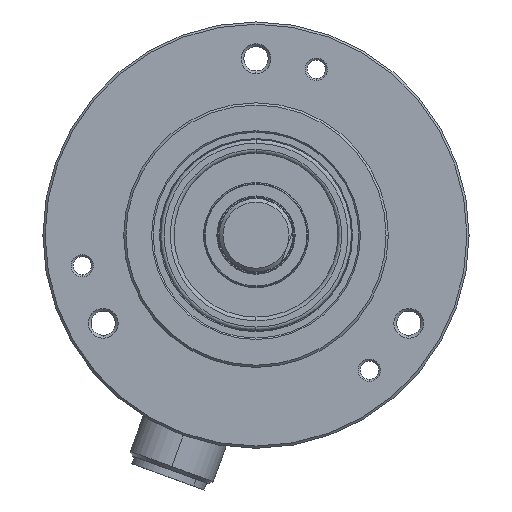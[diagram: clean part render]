
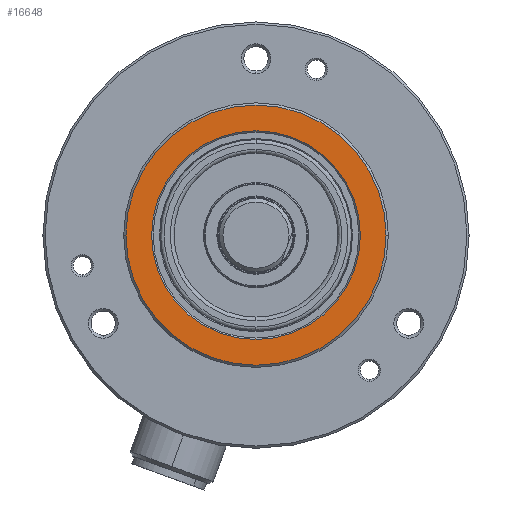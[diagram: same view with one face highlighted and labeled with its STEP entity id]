
A CAD part, left-side view. The second image highlights one B-rep face of the part: STEP entity #16648.
In plain terms, the highlighted planar face has unit normal (-1, 0, 0).
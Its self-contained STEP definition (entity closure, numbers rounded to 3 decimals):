
#51 = AXIS2_PLACEMENT_3D ( 'NONE', #13418, #3708, #15062 ) ;
#1036 = DIRECTION ( 'NONE',  ( 0., 1., 0. ) ) ;
#1146 = EDGE_CURVE ( 'NONE', #15901, #7016, #17236, .T. ) ;
#1320 = PLANE ( 'NONE',  #6390 ) ;
#2953 = DIRECTION ( 'NONE',  ( 0., 1., 0. ) ) ;
#3426 = CIRCLE ( 'NONE', #4643, 14.2 ) ;
#3693 = CARTESIAN_POINT ( 'NONE',  ( 0., 14.2, 0. ) ) ;
#3708 = DIRECTION ( 'NONE',  ( -1., 0., 0. ) ) ;
#4643 = AXIS2_PLACEMENT_3D ( 'NONE', #18475, #8744, #20120 ) ;
#5533 = ORIENTED_EDGE ( 'NONE', *, *, #1146, .T. ) ;
#6390 = AXIS2_PLACEMENT_3D ( 'NONE', #17487, #12673, #2953 ) ;
#6557 = CIRCLE ( 'NONE', #8248, 14.2 ) ;
#6657 = ORIENTED_EDGE ( 'NONE', *, *, #14207, .T. ) ;
#6775 = ORIENTED_EDGE ( 'NONE', *, *, #13125, .T. ) ;
#7016 = VERTEX_POINT ( 'NONE', #14652 ) ;
#8248 = AXIS2_PLACEMENT_3D ( 'NONE', #9330, #20713, #10966 ) ;
#8744 = DIRECTION ( 'NONE',  ( 1., 0., 0. ) ) ;
#9330 = CARTESIAN_POINT ( 'NONE',  ( 0., 0., 0. ) ) ;
#9376 = CARTESIAN_POINT ( 'NONE',  ( 0., -14.2, 0. ) ) ;
#9404 = EDGE_LOOP ( 'NONE', ( #10134, #6657 ) ) ;
#10134 = ORIENTED_EDGE ( 'NONE', *, *, #18482, .T. ) ;
#10351 = VERTEX_POINT ( 'NONE', #3693 ) ;
#10764 = DIRECTION ( 'NONE',  ( -1., 0., 0. ) ) ;
#10966 = DIRECTION ( 'NONE',  ( 0., 1., 0. ) ) ;
#12673 = DIRECTION ( 'NONE',  ( 1., 0., 0. ) ) ;
#13125 = EDGE_CURVE ( 'NONE', #7016, #15901, #15977, .T. ) ;
#13418 = CARTESIAN_POINT ( 'NONE',  ( 0., 0., 0. ) ) ;
#14207 = EDGE_CURVE ( 'NONE', #10351, #17105, #6557, .T. ) ;
#14652 = CARTESIAN_POINT ( 'NONE',  ( 0., 17.7, 0. ) ) ;
#14676 = AXIS2_PLACEMENT_3D ( 'NONE', #20503, #10764, #1036 ) ;
#15062 = DIRECTION ( 'NONE',  ( 0., 1., 0. ) ) ;
#15096 = FACE_BOUND ( 'NONE', #9404, .T. ) ;
#15901 = VERTEX_POINT ( 'NONE', #20056 ) ;
#15977 = CIRCLE ( 'NONE', #51, 17.7 ) ;
#16648 = ADVANCED_FACE ( 'NONE', ( #19436, #15096 ), #1320, .F. ) ;
#17105 = VERTEX_POINT ( 'NONE', #9376 ) ;
#17236 = CIRCLE ( 'NONE', #14676, 17.7 ) ;
#17487 = CARTESIAN_POINT ( 'NONE',  ( 0., 14., 0. ) ) ;
#18044 = EDGE_LOOP ( 'NONE', ( #6775, #5533 ) ) ;
#18475 = CARTESIAN_POINT ( 'NONE',  ( 0., 0., 0. ) ) ;
#18482 = EDGE_CURVE ( 'NONE', #17105, #10351, #3426, .T. ) ;
#19436 = FACE_OUTER_BOUND ( 'NONE', #18044, .T. ) ;
#20056 = CARTESIAN_POINT ( 'NONE',  ( 0., -17.7, 0. ) ) ;
#20120 = DIRECTION ( 'NONE',  ( 0., 1., 0. ) ) ;
#20503 = CARTESIAN_POINT ( 'NONE',  ( 0., 0., 0. ) ) ;
#20713 = DIRECTION ( 'NONE',  ( 1., 0., 0. ) ) ;
